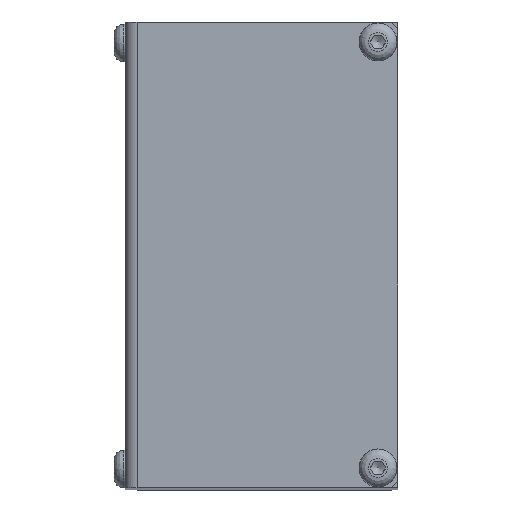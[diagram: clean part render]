
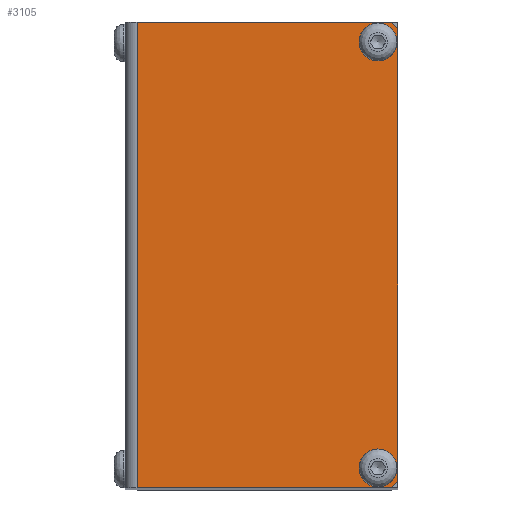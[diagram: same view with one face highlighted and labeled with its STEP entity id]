
A CAD part, top view. The second image highlights one B-rep face of the part: STEP entity #3105.
In plain terms, the highlighted planar face has unit normal (0, 0, 1).
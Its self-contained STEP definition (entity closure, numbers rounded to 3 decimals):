
#135=LINE('',#5049,#333);
#138=LINE('',#5055,#336);
#150=LINE('',#5079,#348);
#156=LINE('',#5094,#354);
#157=LINE('',#5095,#355);
#158=LINE('',#5096,#356);
#333=VECTOR('',#4069,1.414);
#336=VECTOR('',#4074,1.414);
#348=VECTOR('',#4094,70.);
#354=VECTOR('',#4114,68.);
#355=VECTOR('',#4115,38.2);
#356=VECTOR('',#4116,38.2);
#567=PLANE('',#3412);
#645=FACE_BOUND('',#1051,.T.);
#646=FACE_BOUND('',#1052,.T.);
#815=FACE_OUTER_BOUND('',#1050,.T.);
#1050=EDGE_LOOP('',(#2412,#2413,#2414,#2415,#2416,#2417));
#1051=EDGE_LOOP('',(#2418));
#1052=EDGE_LOOP('',(#2419));
#1190=CIRCLE('',#3246,2.85);
#1261=CIRCLE('',#3413,2.85);
#1338=VERTEX_POINT('',#4513);
#1487=VERTEX_POINT('',#5047);
#1488=VERTEX_POINT('',#5048);
#1489=VERTEX_POINT('',#5053);
#1490=VERTEX_POINT('',#5054);
#1497=VERTEX_POINT('',#5077);
#1498=VERTEX_POINT('',#5078);
#1501=VERTEX_POINT('',#5097);
#1617=EDGE_CURVE('',#1338,#1338,#1190,.T.);
#1820=EDGE_CURVE('',#1487,#1488,#135,.T.);
#1823=EDGE_CURVE('',#1489,#1490,#138,.T.);
#1835=EDGE_CURVE('',#1497,#1498,#150,.T.);
#1845=EDGE_CURVE('',#1490,#1487,#156,.T.);
#1846=EDGE_CURVE('',#1497,#1489,#157,.T.);
#1847=EDGE_CURVE('',#1488,#1498,#158,.T.);
#1848=EDGE_CURVE('',#1501,#1501,#1261,.T.);
#2412=ORIENTED_EDGE('',*,*,#1820,.F.);
#2413=ORIENTED_EDGE('',*,*,#1845,.F.);
#2414=ORIENTED_EDGE('',*,*,#1823,.F.);
#2415=ORIENTED_EDGE('',*,*,#1846,.F.);
#2416=ORIENTED_EDGE('',*,*,#1835,.T.);
#2417=ORIENTED_EDGE('',*,*,#1847,.F.);
#2418=ORIENTED_EDGE('',*,*,#1848,.T.);
#2419=ORIENTED_EDGE('',*,*,#1617,.T.);
#3105=ADVANCED_FACE('',(#815,#645,#646),#567,.T.);
#3246=AXIS2_PLACEMENT_3D('',#4514,#3643,#3644);
#3412=AXIS2_PLACEMENT_3D('',#5093,#4112,#4113);
#3413=AXIS2_PLACEMENT_3D('',#5098,#4117,#4118);
#3643=DIRECTION('center_axis',(0.,0.,
-1.));
#3644=DIRECTION('ref_axis',(0.,1.,0.));
#4069=DIRECTION('',(-0.707,-0.707,0.));
#4074=DIRECTION('',(0.707,-0.707,0.));
#4094=DIRECTION('',(0.,-1.,0.));
#4112=DIRECTION('center_axis',(0.,0.,
1.));
#4113=DIRECTION('ref_axis',(1.,0.,0.));
#4114=DIRECTION('',(0.,-1.,0.));
#4115=DIRECTION('',(1.,0.,0.));
#4116=DIRECTION('',(-1.,0.,0.));
#4117=DIRECTION('center_axis',(0.,0.,
-1.));
#4118=DIRECTION('ref_axis',(0.,1.,0.));
#4513=CARTESIAN_POINT('',(38.,5.85,179.));
#4514=CARTESIAN_POINT('Origin',(38.,3.,179.));
#5047=CARTESIAN_POINT('',(41.,1.,179.));
#5048=CARTESIAN_POINT('',(40.,0.,179.));
#5049=CARTESIAN_POINT('',(44.159,4.159,179.));
#5053=CARTESIAN_POINT('',(40.,70.,179.));
#5054=CARTESIAN_POINT('',(41.,69.,179.));
#5055=CARTESIAN_POINT('',(44.159,65.841,179.));
#5077=CARTESIAN_POINT('',(1.8,70.,179.));
#5078=CARTESIAN_POINT('',(1.8,0.,179.));
#5079=CARTESIAN_POINT('',(1.8,35.,179.));
#5093=CARTESIAN_POINT('Origin',(20.635,35.,179.));
#5094=CARTESIAN_POINT('',(41.,70.,179.));
#5095=CARTESIAN_POINT('',(1.8,70.,179.));
#5096=CARTESIAN_POINT('',(-1.259,0.,179.));
#5097=CARTESIAN_POINT('',(38.,69.85,179.));
#5098=CARTESIAN_POINT('Origin',(38.,67.,179.));
